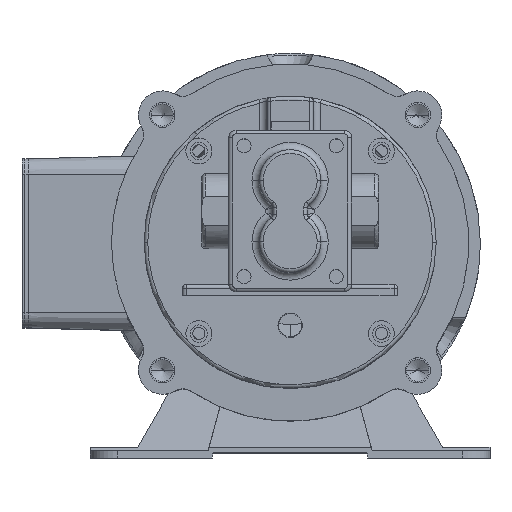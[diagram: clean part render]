
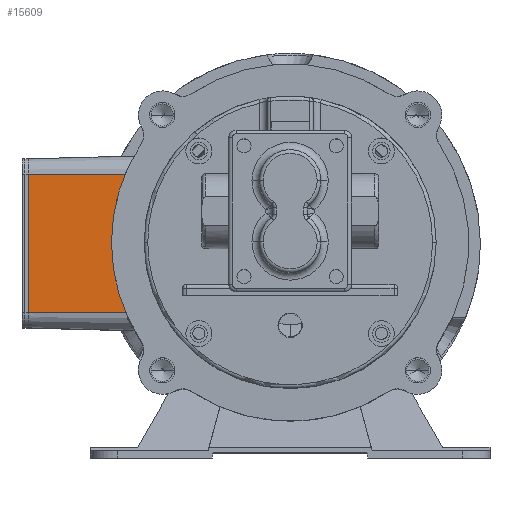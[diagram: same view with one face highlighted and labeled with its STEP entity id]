
A CAD part, top view. The second image highlights one B-rep face of the part: STEP entity #15609.
In plain terms, the highlighted planar face has unit normal (-0.026, 0, 1).
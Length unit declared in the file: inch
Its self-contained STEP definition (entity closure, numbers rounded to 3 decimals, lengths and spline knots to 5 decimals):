
#1607 = CARTESIAN_POINT ( 'NONE',  ( -5.43364, 1.6572, -7.47377 ) ) ;
#1733 =( BOUNDED_CURVE ( )  B_SPLINE_CURVE ( 3, ( #24467, #20609, #42210, #24736 ),
 .UNSPECIFIED., .F., .F. ) 
 B_SPLINE_CURVE_WITH_KNOTS ( ( 4, 4 ),
 ( 0., 0.40776 ),
 .UNSPECIFIED. ) 
 CURVE ( )  GEOMETRIC_REPRESENTATION_ITEM ( )  RATIONAL_B_SPLINE_CURVE ( ( 1., 0.986, 0.986, 1. ) ) 
 REPRESENTATION_ITEM ( '' )  );
#2066 = CARTESIAN_POINT ( 'NONE',  ( -3.94235, -0.23635, -7.43472 ) ) ;
#3475 = EDGE_CURVE ( 'NONE', #49432, #30213, #50751, .T. ) ;
#4782 = DIRECTION ( 'NONE',  ( -1., 0., -0.026 ) ) ;
#5790 = DIRECTION ( 'NONE',  ( -0.026, 0., 1. ) ) ;
#6955 = VECTOR ( 'NONE', #4782, 39.37008 ) ;
#8664 = EDGE_LOOP ( 'NONE', ( #31386, #41301, #12718, #22819, #30776 ) ) ;
#10027 = EDGE_CURVE ( 'NONE', #40901, #45798, #1733, .T. ) ;
#10987 = DIRECTION ( 'NONE',  ( 0., -1., 0. ) ) ;
#12718 = ORIENTED_EDGE ( 'NONE', *, *, #10027, .T. ) ;
#13563 = EDGE_CURVE ( 'NONE', #49432, #40901, #40887, .T. ) ;
#14273 = LINE ( 'NONE', #35323, #38102 ) ;
#15609 = ADVANCED_FACE ( 'NONE', ( #18110 ), #26593, .T. ) ;
#16788 = AXIS2_PLACEMENT_3D ( 'NONE', #43268, #5790, #51754 ) ;
#18110 = FACE_OUTER_BOUND ( 'NONE', #8664, .T. ) ;
#19480 = CARTESIAN_POINT ( 'NONE',  ( -3.78838, 1.6572, -7.43069 ) ) ;
#20609 = CARTESIAN_POINT ( 'NONE',  ( -4.02097, 0.92049, -7.43678 ) ) ;
#20617 = VECTOR ( 'NONE', #10987, 39.37008 ) ;
#21103 = EDGE_CURVE ( 'NONE', #45798, #36931, #14273, .T. ) ;
#22335 = EDGE_CURVE ( 'NONE', #36931, #30213, #32326, .T. ) ;
#22819 = ORIENTED_EDGE ( 'NONE', *, *, #21103, .T. ) ;
#22885 = CARTESIAN_POINT ( 'NONE',  ( -4.02097, 0.5322, -7.43678 ) ) ;
#24467 = CARTESIAN_POINT ( 'NONE',  ( -4.02097, 0.5322, -7.43678 ) ) ;
#24736 = CARTESIAN_POINT ( 'NONE',  ( -3.78838, 1.6572, -7.43069 ) ) ;
#26593 = PLANE ( 'NONE',  #16788 ) ;
#27799 = CARTESIAN_POINT ( 'NONE',  ( -4.02097, 0.1439, -7.43678 ) ) ;
#28953 = CARTESIAN_POINT ( 'NONE',  ( -5.43364, -0.5928, -7.47377 ) ) ;
#30156 = DIRECTION ( 'NONE',  ( -1., 0., -0.026 ) ) ;
#30213 = VERTEX_POINT ( 'NONE', #28953 ) ;
#30776 = ORIENTED_EDGE ( 'NONE', *, *, #22335, .T. ) ;
#31386 = ORIENTED_EDGE ( 'NONE', *, *, #3475, .F. ) ;
#32326 = LINE ( 'NONE', #40517, #20617 ) ;
#35323 = CARTESIAN_POINT ( 'NONE',  ( -5.43364, 1.6572, -7.47377 ) ) ;
#36931 = VERTEX_POINT ( 'NONE', #1607 ) ;
#38102 = VECTOR ( 'NONE', #30156, 39.37008 ) ;
#38688 = CARTESIAN_POINT ( 'NONE',  ( -5.43364, -0.5928, -7.47377 ) ) ;
#40517 = CARTESIAN_POINT ( 'NONE',  ( -5.43364, 1.6572, -7.47377 ) ) ;
#40887 =( BOUNDED_CURVE ( )  B_SPLINE_CURVE ( 3, ( #44476, #2066, #27799, #22885 ),
 .UNSPECIFIED., .F., .T. ) 
 B_SPLINE_CURVE_WITH_KNOTS ( ( 4, 4 ),
 ( 5.87543, 6.28319 ),
 .UNSPECIFIED. ) 
 CURVE ( )  GEOMETRIC_REPRESENTATION_ITEM ( )  RATIONAL_B_SPLINE_CURVE ( ( 1., 0.986, 0.986, 1. ) ) 
 REPRESENTATION_ITEM ( '' )  );
#40901 = VERTEX_POINT ( 'NONE', #41899 ) ;
#41301 = ORIENTED_EDGE ( 'NONE', *, *, #13563, .T. ) ;
#41899 = CARTESIAN_POINT ( 'NONE',  ( -4.02097, 0.5322, -7.43678 ) ) ;
#42210 = CARTESIAN_POINT ( 'NONE',  ( -3.94235, 1.30074, -7.43472 ) ) ;
#43268 = CARTESIAN_POINT ( 'NONE',  ( -5.43364, 1.6572, -7.47377 ) ) ;
#44476 = CARTESIAN_POINT ( 'NONE',  ( -3.78838, -0.5928, -7.43069 ) ) ;
#45798 = VERTEX_POINT ( 'NONE', #19480 ) ;
#49432 = VERTEX_POINT ( 'NONE', #53809 ) ;
#50751 = LINE ( 'NONE', #38688, #6955 ) ;
#51754 = DIRECTION ( 'NONE',  ( 0., -1., 0. ) ) ;
#53809 = CARTESIAN_POINT ( 'NONE',  ( -3.78838, -0.5928, -7.43069 ) ) ;
